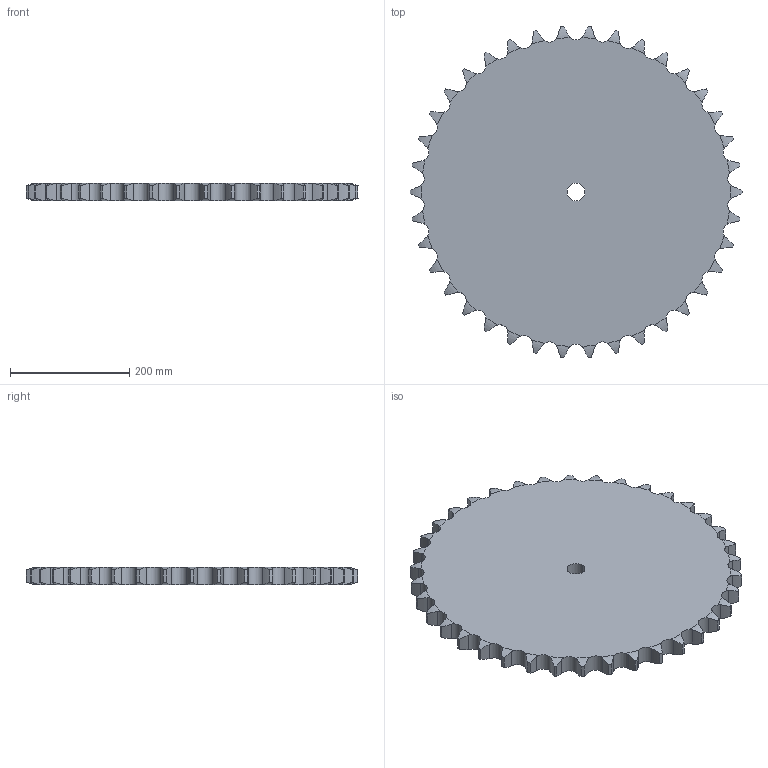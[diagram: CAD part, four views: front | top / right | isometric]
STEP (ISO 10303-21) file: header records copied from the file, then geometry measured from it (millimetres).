
FILE_DESCRIPTION((''),'2;1');
FILE_NAME('500-751-0038_PRT','2021-02-12T',('Brieden'),('Brieden'),'PRO/ENGINEER BY PARAMETRIC TECHNOLOGY CORPORATION, 2010160','PRO/ENGINEER BY PARAMETRIC TECHNOLOGY CORPORATION, 2010160','');
FILE_SCHEMA(('AUTOMOTIVE_DESIGN { 1 0 10303 214 1 1 1 1 }'));
Length unit declared in the file: millimetre
Products named in the file (1): 500-751-0038_PRT
Bounding box: 556.65 x 555.12 x 29.4 mm (x, y, z)
Volume: 6392845.1 mm3; surface area: 510841 mm2
Topology: 1 solids, 1 shells, 232 faces, 690 edges, 460 vertices
Faces by surface type: cylinder 154, torus 76, plane 2
Entity records: 11846 total; most frequent: CARTESIAN_POINT 3849, ORIENTED_EDGE 1380, DIRECTION 1082, PRESENTATION_STYLE_ASSIGNMENT 691, STYLED_ITEM 691, CURVE_STYLE 690, EDGE_CURVE 690, AXIS2_PLACEMENT_3D 464
